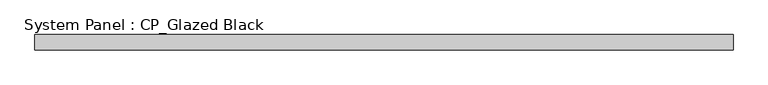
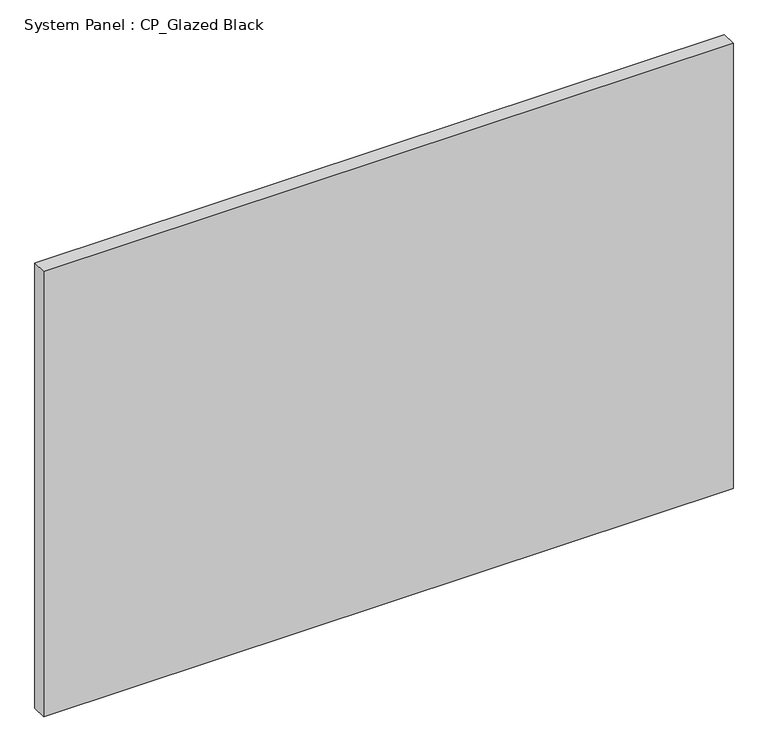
"""IFC4 building model written with IfcOpenShell, lengths in millimetres: plate geometry, System Panel : CP_Glazed Black."""

from ifc_helpers import new_model, si_unit, origin, origin_with_axes, place, context, project, spatial, polyline, outline, extrude, source, transform, mapped, element, save


def system_panel_cp_glazed_black_cbfe311e(model_context):
    return source(origin(), model_context, "Body", "SweptSolid", [
        extrude(outline(polyline([(585.7139366, 19.05), (-585.7139366, 19.05), (-585.7139366, 44.45), (585.7139366, 44.45), (585.7139366, 19.05)])), origin_with_axes(), (0.0, 0.0, 1.0), 800.1),
    ])


if __name__ == "__main__":
    model = new_model("IFC4")
    model_context = context("Model", 3, world=origin())
    ifc_project = project(units=[si_unit("LENGTHUNIT", "METRE", prefix="MILLI")], contexts=[model_context])
    site = spatial("IfcSite", under=ifc_project)
    building = spatial("IfcBuilding", under=site)
    placement = place(None, origin())
    system_panel_cp_glazed_black_shape = system_panel_cp_glazed_black_cbfe311e(model_context)
    element("IfcPlate", 1, ObjectType="System Panel : CP_Glazed Black", at=placement, inside=building, context=model_context, shape_type="MappedRepresentation", body=[
        mapped(system_panel_cp_glazed_black_shape, transform((0.0, 0.0, 0.0), x_axis=(1.0, 0.0, 0.0), y_axis=(0.0, 1.0, 0.0), z_axis=(0.0, 0.0, 1.0))),
    ])
    save(model, "model.ifc")
